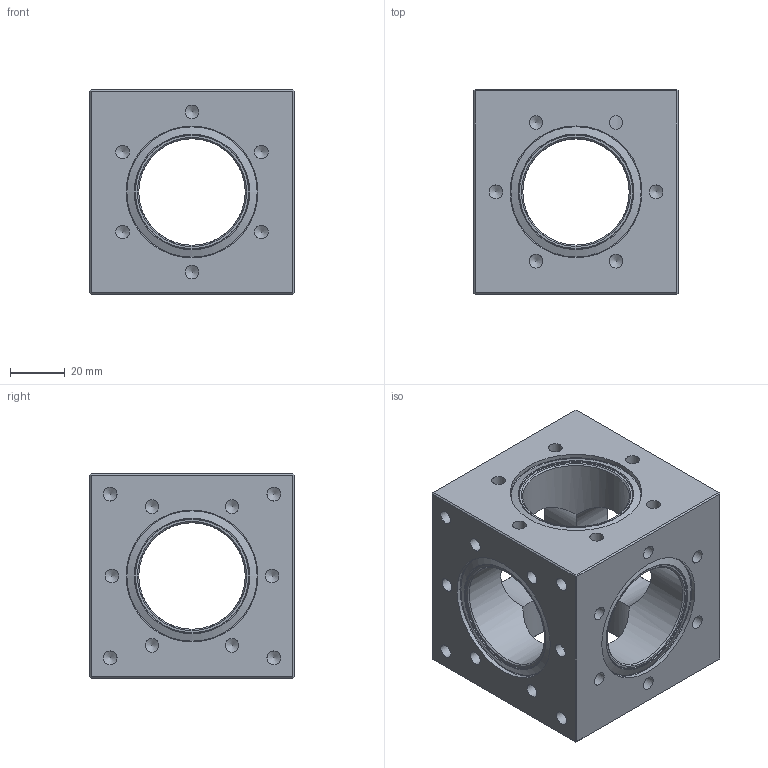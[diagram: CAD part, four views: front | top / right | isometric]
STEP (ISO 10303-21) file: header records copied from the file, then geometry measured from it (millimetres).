
FILE_DESCRIPTION(/* description */ (''),/* implementation_level */ '2;1');
FILE_NAME(/* name */ '',/* time_stamp */ '2024-03-04T13:17:04+09:00',/* author */ (''),/* organization */ (''),/* preprocessor_version */ 'ST-DEVELOPER v20',/* originating_system */ 'Autodesk Translation Framework v12.20.1.177',/* authorisation */ '');
FILE_SCHEMA (('AUTOMOTIVE_DESIGN { 1 0 10303 214 3 1 1 }'));
Length unit declared in the file: millimetre
Products named in the file (3): 2107-4093 ICF70cube(□75)a; ICF70(t2.5)φ50-φ39.4(BeCu) v2; ICF70(t2.5φ50)φ39(BeCu)_JIS v1
Assembly tree (7 placements, depth 2):
  2107-4093 ICF70cube(□75)a
    ICF70(t2.5)φ50-φ39.4(BeCu) v2
    ICF70(t2.5φ50)φ39(BeCu)_JIS v1  x6
Bounding box: 75 x 75 x 75 mm (x, y, z)
Volume: 222168.8 mm3; surface area: 49493.8 mm2
Topology: 1 solids, 1 shells, 256 faces, 549 edges, 341 vertices
Faces by surface type: cylinder 106, plane 76, cone 56, torus 18
Full cylindrical faces by diameter (mm): 5 x44, 5.035 x44, 39 x6, 41.9 x6, 48.2 x1, 48.3 x5
Entity records: 6918 total; most frequent: DIRECTION 1332, CARTESIAN_POINT 1112, ORIENTED_EDGE 1010, AXIS2_PLACEMENT_3D 561, EDGE_CURVE 505, EDGE_LOOP 356, VERTEX_POINT 341, CIRCLE 278
